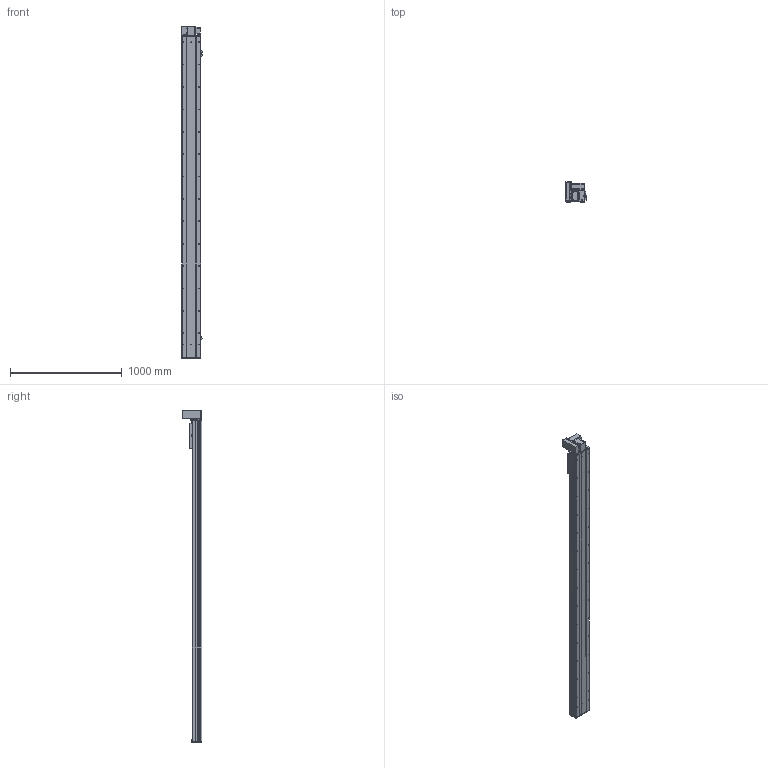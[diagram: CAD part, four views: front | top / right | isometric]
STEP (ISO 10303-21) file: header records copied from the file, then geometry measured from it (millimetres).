
FILE_DESCRIPTION (( 'STEP AP203' ), '1' );
FILE_NAME ('Y170CB-D105-S2550-UL-P400W.STEP', '2020-02-20T03:08:18', ( '微软用户' ), ( '微软中国' ), 'SwSTEP 2.0', 'SolidWorks 2017', '' );
FILE_SCHEMA (( 'CONFIG_CONTROL_DESIGN' ));
Length unit declared in the file: millimetre
Products named in the file (18): Y1埴倛裔; 70C--詩湍揤踡え-; 17B-耜蚾蟀諉啣----; 70CB--耜裔; 00B-俋欶BM--163; 70C-雄赽釱-奻-; B-源倛裔啣; Y170CB-D105-S2550-UL-P400W; 0C--雄赽釱俋欶-170; 0B-萇儂楊擘啣; 70CB-詩湍--; san松下电机400不带刹车----; Y100-135俋离換覜ん--; 70CB-掛极-; Y170CB-陔俋离換覜結え---; --70CB --喘謫眊楊擘啣-; 70B喘謫眊----; 70CB-耜裔啣-
Assembly tree (21 placements, depth 2):
  Y170CB-D105-S2550-UL-P400W
    B-源倛裔啣
    0B-萇儂楊擘啣
    san松下电机400不带刹车----
    70CB-掛极-
    --70CB --喘謫眊楊擘啣-
    70CB-耜裔啣-  x2
    70C--詩湍揤踡え-  x2
    70CB--耜裔
    70C-雄赽釱-奻-
    0C--雄赽釱俋欶-170
    70CB-詩湍--
    Y100-135俋离換覜ん--  x3
    Y170CB-陔俋离換覜結え---
    70B喘謫眊----
    Y1埴倛裔
    17B-耜蚾蟀諉啣----
    00B-俋欶BM--163
Bounding box: 183.5 x 174 x 2966 mm (x, y, z)
Volume: 12642115.1 mm3; surface area: 4566001.5 mm2
Topology: 21 solids, 21 shells, 1071 faces, 2885 edges, 1914 vertices
Faces by surface type: cylinder 585, plane 462, cone 24
Entity records: 34372 total; most frequent: CARTESIAN_POINT 6336, DIRECTION 5594, ORIENTED_EDGE 5252, EDGE_CURVE 2626, AXIS2_PLACEMENT_3D 2068, VERTEX_POINT 1744, LINE 1458, VECTOR 1458
